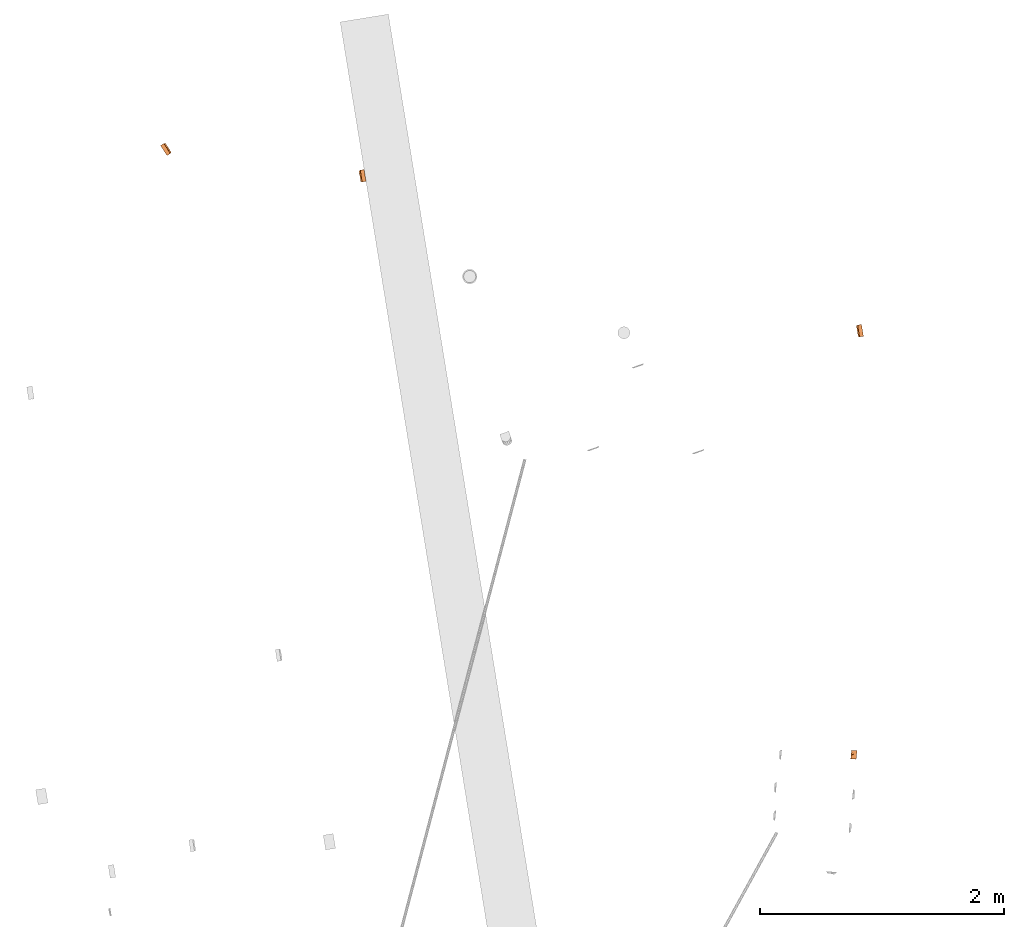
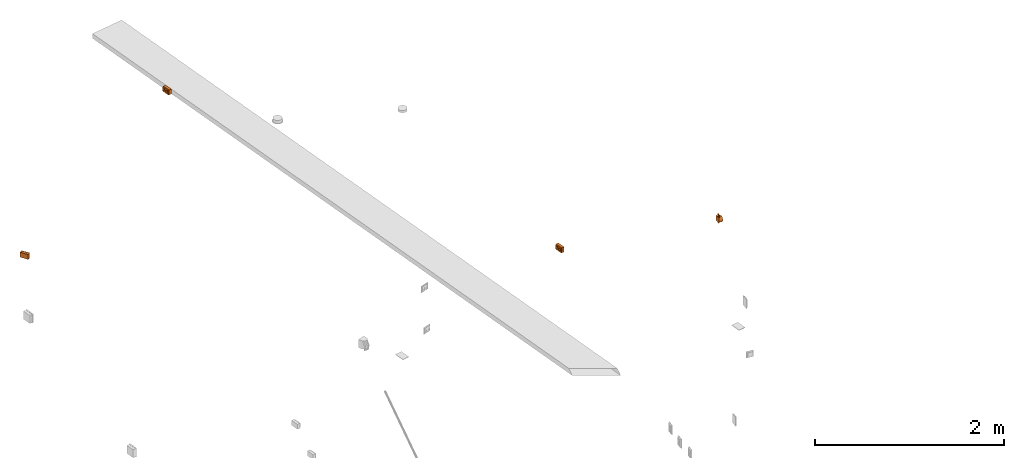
# One storey, part 32 of 33: 4 proxies.
"""IFC2X3 building model written with IfcOpenShell, lengths in millimetres."""

from ifc_helpers import new_model, entity, si_unit, converted_unit, derived_unit, direction, frame, frame_2d, origin, origin_with_axes, origin_2d_with_axis, place, context, subcontext, project, spatial, polyline, circle_curve, parameter, trimmed, segment, composite_curve, rectangle, circle, hollow_circle, outline, extrude, source, transform, mapped, material, type_object, element, save


model = new_model("IFC2X3")

# Units and contexts
plan_context = context("Plan", 3, precision=1e-05, world=origin_with_axes())
model_context = context("Model", 3, precision=0.01, world=origin(), true_north=direction((6.12323399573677e-17, 1.0)))
body_context = subcontext(model_context, "Body", "Model", "MODEL_VIEW")
ifc_project = project(units=[converted_unit("PLANEANGLEUNIT", "DEGREE", entity("IfcPositiveLengthMeasure", 0.0174532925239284), si_unit("PLANEANGLEUNIT", "RADIAN"), dimensions=[0, 0, 0, 0, 0, 0, 0]), si_unit("AREAUNIT", "SQUARE_METRE"), si_unit("LENGTHUNIT", "METRE", prefix="MILLI"), si_unit("MASSUNIT", "GRAM", prefix="KILO"), si_unit("POWERUNIT", "WATT"), si_unit("PRESSUREUNIT", "PASCAL", prefix="KILO"), si_unit("FORCEUNIT", "NEWTON", prefix="KILO"), si_unit("ELECTRICVOLTAGEUNIT", "VOLT"), si_unit("ELECTRICCURRENTUNIT", "AMPERE"), si_unit("THERMODYNAMICTEMPERATUREUNIT", "DEGREE_CELSIUS"), si_unit("TIMEUNIT", "SECOND"), si_unit("VOLUMEUNIT", "CUBIC_METRE"), derived_unit("LINEARVELOCITYUNIT", [(si_unit("LENGTHUNIT", "METRE"), 1), (si_unit("TIMEUNIT", "SECOND"), -1)]), derived_unit("VOLUMETRICFLOWRATEUNIT", [(si_unit("VOLUMEUNIT", "CUBIC_METRE"), 1), (si_unit("TIMEUNIT", "SECOND"), -1)]), derived_unit("THERMALTRANSMITTANCEUNIT", [(si_unit("POWERUNIT", "WATT"), 1), (si_unit("THERMODYNAMICTEMPERATUREUNIT", "KELVIN"), -1), (si_unit("AREAUNIT", "SQUARE_METRE"), -1)]), derived_unit("SOUNDPRESSUREUNIT", [(si_unit("PRESSUREUNIT", "PASCAL"), 1)])], contexts=[model_context, plan_context])

# Site, building, storey
site_placement = place(None, frame((-0.219946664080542, 0.12226179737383, 0.0), z_axis=(0.0, 0.0, 1.0), x_axis=(-0.160236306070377, 0.987078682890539, 0.0)))
site = spatial("IfcSite", under=ifc_project, at=site_placement, Name="Default", CompositionType="ELEMENT")
building_placement = place(site_placement, origin_with_axes())
building = spatial("IfcBuilding", under=site, at=building_placement, CompositionType="ELEMENT")
storey_placement = place(building_placement, frame((0.0, 0.0, 59000.0), z_axis=(0.0, 0.0, 1.0), x_axis=(1.0, 0.0, 0.0)))
storey = spatial("IfcBuildingStorey", under=building, at=storey_placement, Name="Nivå F", CompositionType="ELEMENT", Elevation=59000.0)

# Proxies
ifc_material = material(Name="<Unnamed>")
building_element_proxy_type_1 = type_object("IfcBuildingElementProxyType", Name="Dobbel stikk på vegg 2P+J hor PH:EARTHED-SOCKET-2(HOR)", PredefinedType="NOTDEFINED", material=ifc_material)
shared_shape_1 = source(origin(), body_context, "Body", "SweptSolid", [
    extrude(outline(composite_curve([segment(polyline([(-6.66666666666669, -6.66666666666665), (13.3333333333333, -6.66666666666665)]), True, "CONTINUOUS"), segment(trimmed(circle_curve(frame_2d((13.3333333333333, 13.3333333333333), x_axis=(0.0, -1.0)), 20.0), [parameter(270.0)], [parameter(5.08888749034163e-14)], True, "PARAMETER"), False, "CONTINUOUS"), segment(polyline([(-6.66666666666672, 13.3333333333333), (-6.66666666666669, -6.66666666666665)]), True, "CONTINUOUS")], self_intersect=False)), frame((35.3333333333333, 42.8999999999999, 13.3533333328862), z_axis=(0.0, 1.0, 0.0), x_axis=(0.0, 0.0, -1.0)), (0.0, 0.0, 1.0), 0.199999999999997),
    extrude(outline(composite_curve([segment(polyline([(-6.66666666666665, -6.66666666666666), (13.3333333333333, -6.66666666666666)]), True, "CONTINUOUS"), segment(trimmed(circle_curve(frame_2d((13.3333333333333, 13.3333333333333), x_axis=(-1.0, 0.0)), 20.0), [parameter(360.0)], [parameter(89.9999999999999)], True, "PARAMETER"), False, "CONTINUOUS"), segment(polyline([(-6.66666666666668, 13.3333333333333), (-6.66666666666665, -6.66666666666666)]), True, "CONTINUOUS")], self_intersect=False)), frame((35.3333333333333, 42.8999999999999, -13.3233333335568), z_axis=(0.0, 1.0, 0.0), x_axis=(-1.0, 0.0, 0.0)), (0.0, 0.0, 1.0), 0.199999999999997),
    extrude(outline(composite_curve([segment(polyline([(-6.66666666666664, -6.66666666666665), (13.3333333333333, -6.66666666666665)]), True, "CONTINUOUS"), segment(trimmed(circle_curve(frame_2d((13.3333333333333, 13.3333333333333), x_axis=(-1.0, 0.0)), 20.0), [parameter(0.0)], [parameter(89.9999999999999)], True, "PARAMETER"), False, "CONTINUOUS"), segment(polyline([(-6.66666666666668, 13.3333333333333), (-6.66666666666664, -6.66666666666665)]), True, "CONTINUOUS")], self_intersect=False)), frame((8.66666666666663, 42.8999999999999, 13.3433333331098), z_axis=(0.0, 1.0, 0.0), x_axis=(1.0, 0.0, 0.0)), (0.0, 0.0, 1.0), 0.199999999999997),
    extrude(outline(composite_curve([segment(polyline([(-6.66666666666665, -6.66666666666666), (13.3333333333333, -6.66666666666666)]), True, "CONTINUOUS"), segment(trimmed(circle_curve(frame_2d((13.3333333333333, 13.3333333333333), x_axis=(-1.0, 0.0)), 20.0), [parameter(360.0)], [parameter(89.9999999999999)], True, "PARAMETER"), False, "CONTINUOUS"), segment(polyline([(-6.66666666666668, 13.3333333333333), (-6.66666666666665, -6.66666666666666)]), True, "CONTINUOUS")], self_intersect=False)), frame((35.3333333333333, 42.8999999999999, -13.3433333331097), z_axis=(0.0, 1.0, 0.0), x_axis=(-1.0, 0.0, 0.0)), (0.0, 0.0, 1.0), 0.199999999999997),
    extrude(outline(composite_curve([segment(polyline([(-6.66666666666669, -6.66666666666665), (13.3333333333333, -6.66666666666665)]), True, "CONTINUOUS"), segment(trimmed(circle_curve(frame_2d((13.3333333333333, 13.3333333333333), x_axis=(0.0, -1.0)), 20.0), [parameter(270.0)], [parameter(5.08888749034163e-14)], True, "PARAMETER"), False, "CONTINUOUS"), segment(polyline([(-6.66666666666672, 13.3333333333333), (-6.66666666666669, -6.66666666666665)]), True, "CONTINUOUS")], self_intersect=False)), frame((35.3333333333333, 42.8999999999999, 13.3333333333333), z_axis=(0.0, 1.0, 0.0), x_axis=(0.0, 0.0, -1.0)), (0.0, 0.0, 1.0), 0.199999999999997),
    extrude(outline(composite_curve([segment(polyline([(-6.66666666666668, -6.66666666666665), (13.3333333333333, -6.66666666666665)]), True, "CONTINUOUS"), segment(trimmed(circle_curve(frame_2d((13.3333333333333, 13.3333333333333), x_axis=(0.0, -1.0)), 20.0), [parameter(270.0)], [parameter(0.0)], True, "PARAMETER"), False, "CONTINUOUS"), segment(polyline([(-6.66666666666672, 13.3333333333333), (-6.66666666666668, -6.66666666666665)]), True, "CONTINUOUS")], self_intersect=False)), frame((8.66666666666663, 42.8999999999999, -13.3333333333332), z_axis=(0.0, 1.0, 0.0), x_axis=(0.0, 0.0, 1.0)), (0.0, 0.0, 1.0), 0.199999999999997),
    extrude(outline(composite_curve([segment(polyline([(-6.66666666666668, -6.66666666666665), (13.3333333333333, -6.66666666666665)]), True, "CONTINUOUS"), segment(trimmed(circle_curve(frame_2d((13.3333333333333, 13.3333333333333), x_axis=(0.0, -1.0)), 20.0), [parameter(270.0)], [parameter(0.0)], True, "PARAMETER"), False, "CONTINUOUS"), segment(polyline([(-6.66666666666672, 13.3333333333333), (-6.66666666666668, -6.66666666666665)]), True, "CONTINUOUS")], self_intersect=False)), frame((-8.66666666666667, 42.8999999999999, 13.3533333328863), z_axis=(0.0, 1.0, 0.0), x_axis=(0.0, 0.0, -1.0)), (0.0, 0.0, 1.0), 0.199999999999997),
    extrude(outline(composite_curve([segment(polyline([(-6.66666666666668, -6.66666666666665), (13.3333333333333, -6.66666666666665)]), True, "CONTINUOUS"), segment(trimmed(circle_curve(frame_2d((13.3333333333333, 13.3333333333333), x_axis=(-1.0, 0.0)), 20.0), [parameter(0.0)], [parameter(90.0)], True, "PARAMETER"), False, "CONTINUOUS"), segment(polyline([(-6.66666666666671, 13.3333333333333), (-6.66666666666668, -6.66666666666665)]), True, "CONTINUOUS")], self_intersect=False)), frame((-8.66666666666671, 42.8999999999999, -13.3233333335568), z_axis=(0.0, 1.0, 0.0), x_axis=(-1.0, 0.0, 0.0)), (0.0, 0.0, 1.0), 0.199999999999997),
    extrude(outline(composite_curve([segment(polyline([(-6.66666666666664, -6.66666666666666), (13.3333333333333, -6.66666666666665)]), True, "CONTINUOUS"), segment(trimmed(circle_curve(frame_2d((13.3333333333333, 13.3333333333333), x_axis=(-1.0, 0.0)), 20.0), [parameter(360.0)], [parameter(89.9999999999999)], True, "PARAMETER"), False, "CONTINUOUS"), segment(polyline([(-6.66666666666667, 13.3333333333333), (-6.66666666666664, -6.66666666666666)]), True, "CONTINUOUS")], self_intersect=False)), frame((-35.3333333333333, 42.8999999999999, 13.3433333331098), z_axis=(0.0, 1.0, 0.0), x_axis=(1.0, 0.0, 0.0)), (0.0, 0.0, 1.0), 0.199999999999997),
    extrude(outline(composite_curve([segment(polyline([(-6.66666666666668, -6.66666666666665), (13.3333333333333, -6.66666666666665)]), True, "CONTINUOUS"), segment(trimmed(circle_curve(frame_2d((13.3333333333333, 13.3333333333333), x_axis=(-1.0, 0.0)), 20.0), [parameter(0.0)], [parameter(90.0)], True, "PARAMETER"), False, "CONTINUOUS"), segment(polyline([(-6.66666666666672, 13.3333333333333), (-6.66666666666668, -6.66666666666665)]), True, "CONTINUOUS")], self_intersect=False)), frame((-8.66666666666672, 42.8999999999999, -13.3433333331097), z_axis=(0.0, 1.0, 0.0), x_axis=(-1.0, 0.0, 0.0)), (0.0, 0.0, 1.0), 0.199999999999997),
    extrude(outline(composite_curve([segment(polyline([(-6.66666666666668, -6.66666666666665), (13.3333333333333, -6.66666666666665)]), True, "CONTINUOUS"), segment(trimmed(circle_curve(frame_2d((13.3333333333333, 13.3333333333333), x_axis=(0.0, -1.0)), 20.0), [parameter(270.0)], [parameter(0.0)], True, "PARAMETER"), False, "CONTINUOUS"), segment(polyline([(-6.66666666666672, 13.3333333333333), (-6.66666666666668, -6.66666666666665)]), True, "CONTINUOUS")], self_intersect=False)), frame((-8.66666666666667, 42.8999999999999, 13.3333333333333), z_axis=(0.0, 1.0, 0.0), x_axis=(0.0, 0.0, -1.0)), (0.0, 0.0, 1.0), 0.199999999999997),
    extrude(outline(composite_curve([segment(polyline([(-6.66666666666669, -6.66666666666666), (13.3333333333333, -6.66666666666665)]), True, "CONTINUOUS"), segment(trimmed(circle_curve(frame_2d((13.3333333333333, 13.3333333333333), x_axis=(0.0, -1.0)), 20.0), [parameter(270.0)], [parameter(5.08888749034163e-14)], True, "PARAMETER"), False, "CONTINUOUS"), segment(polyline([(-6.66666666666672, 13.3333333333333), (-6.66666666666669, -6.66666666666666)]), True, "CONTINUOUS")], self_intersect=False)), frame((-35.3333333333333, 42.8999999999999, -13.3333333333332), z_axis=(0.0, 1.0, 0.0), x_axis=(0.0, 0.0, 1.0)), (0.0, 0.0, 1.0), 0.199999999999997),
    extrude(rectangle(XDim=9.99999999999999, YDim=1.0, at=frame_2d((0.0, 2.1094237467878e-15), x_axis=(1.0, 0.0))), frame((22.0, 40.0, -17.6), z_axis=(0.0, 0.0, 1.0), x_axis=(0.0, -1.0, 0.0)), (0.0, 0.0, 1.0), 0.199999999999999),
    extrude(rectangle(XDim=21.5, YDim=1.0, at=frame_2d((0.0, 8.43769498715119e-15), x_axis=(1.0, 0.0))), frame((22.0, 32.25, -19.6), z_axis=(0.0, 0.0, 1.0), x_axis=(0.0, -1.0, 0.0)), (0.0, 0.0, 1.0), 0.200000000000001),
    extrude(rectangle(XDim=9.99999999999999, YDim=1.0, at=frame_2d((0.0, 2.1094237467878e-15), x_axis=(1.0, 0.0))), frame((22.0, 40.0, 17.4), z_axis=(0.0, 0.0, 1.0), x_axis=(0.0, -1.0, 0.0)), (0.0, 0.0, 1.0), 0.199999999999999),
    extrude(rectangle(XDim=21.5, YDim=1.0, at=frame_2d((0.0, 8.43769498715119e-15), x_axis=(1.0, 0.0))), frame((22.0, 32.25, 19.4), z_axis=(0.0, 0.0, 1.0), x_axis=(0.0, -1.0, 0.0)), (0.0, 0.0, 1.0), 0.200000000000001),
    extrude(rectangle(XDim=9.99999999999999, YDim=1.0, at=frame_2d((0.0, -2.1094237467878e-15), x_axis=(1.0, 0.0))), frame((-22.0, 40.0, -17.6), z_axis=(0.0, 0.0, 1.0), x_axis=(0.0, -1.0, 0.0)), (0.0, 0.0, 1.0), 0.199999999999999),
    extrude(rectangle(XDim=21.5, YDim=1.0, at=frame_2d((0.0, 8.43769498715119e-15), x_axis=(1.0, 0.0))), frame((-22.0, 32.25, -19.6), z_axis=(0.0, 0.0, 1.0), x_axis=(0.0, -1.0, 0.0)), (0.0, 0.0, 1.0), 0.200000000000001),
    extrude(rectangle(XDim=9.99999999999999, YDim=1.0, at=frame_2d((0.0, -2.1094237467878e-15), x_axis=(1.0, 0.0))), frame((-22.0, 40.0, 17.4), z_axis=(0.0, 0.0, 1.0), x_axis=(0.0, -1.0, 0.0)), (0.0, 0.0, 1.0), 0.199999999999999),
    extrude(rectangle(XDim=21.5, YDim=1.0, at=frame_2d((0.0, 8.43769498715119e-15), x_axis=(1.0, 0.0))), frame((-22.0, 32.25, 19.4), z_axis=(0.0, 0.0, 1.0), x_axis=(0.0, -1.0, 0.0)), (0.0, 0.0, 1.0), 0.200000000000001),
    extrude(rectangle(XDim=0.199999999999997, YDim=2.0, at=frame_2d((4.2257863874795e-15, 0.0), x_axis=(1.0, 0.0))), frame((43.0, 43.0, 0.0199999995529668), z_axis=(0.0, 0.0, 1.0), x_axis=(0.0, 1.0, 0.0)), (0.0, 0.0, 1.0), 20.0),
    extrude(rectangle(XDim=0.199999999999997, YDim=40.0, at=frame_2d((4.2257863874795e-15, 0.0), x_axis=(1.0, 0.0))), frame((22.0, 43.0, 20.0199999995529), z_axis=(0.0, 0.0, 1.0), x_axis=(0.0, 1.0, 0.0)), (0.0, 0.0, 1.0), 6.5),
    extrude(rectangle(XDim=0.199999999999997, YDim=2.0, at=frame_2d((4.2257863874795e-15, 0.0), x_axis=(1.0, 0.0))), frame((43.0, 43.0, -19.9900000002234), z_axis=(0.0, 0.0, 1.0), x_axis=(0.0, -1.0, 0.0)), (0.0, 0.0, 1.0), 20.0),
    extrude(rectangle(XDim=0.199999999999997, YDim=40.0, at=frame_2d((4.2257863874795e-15, 0.0), x_axis=(1.0, 0.0))), frame((22.0, 43.0, -26.4900000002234), z_axis=(0.0, 0.0, 1.0), x_axis=(0.0, -1.0, 0.0)), (0.0, 0.0, 1.0), 6.49999999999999),
    extrude(rectangle(XDim=0.199999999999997, YDim=2.0, at=frame_2d((4.2257863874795e-15, 0.0), x_axis=(1.0, 0.0))), frame((1.0, 43.0, 0.00999999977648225), z_axis=(0.0, 0.0, 1.0), x_axis=(0.0, -1.0, 0.0)), (0.0, 0.0, 1.0), 20.0),
    extrude(rectangle(XDim=0.199999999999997, YDim=2.0, at=frame_2d((4.2257863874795e-15, 0.0), x_axis=(1.0, 0.0))), frame((43.0, 43.0, -20.0099999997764), z_axis=(0.0, 0.0, 1.0), x_axis=(0.0, -1.0, 0.0)), (0.0, 0.0, 1.0), 20.0),
    extrude(rectangle(XDim=0.199999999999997, YDim=40.0, at=frame_2d((4.2257863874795e-15, 0.0), x_axis=(1.0, 0.0))), frame((22.0, 43.0, -26.5099999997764), z_axis=(0.0, 0.0, 1.0), x_axis=(0.0, -1.0, 0.0)), (0.0, 0.0, 1.0), 6.5),
    extrude(rectangle(XDim=0.199999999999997, YDim=2.0, at=frame_2d((4.2257863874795e-15, 0.0), x_axis=(1.0, 0.0))), frame((43.0, 43.0, 0.0), z_axis=(0.0, 0.0, 1.0), x_axis=(0.0, 1.0, 0.0)), (0.0, 0.0, 1.0), 20.0),
    extrude(rectangle(XDim=0.199999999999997, YDim=40.0, at=frame_2d((4.2257863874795e-15, 0.0), x_axis=(1.0, 0.0))), frame((22.0, 43.0, 20.0), z_axis=(0.0, 0.0, 1.0), x_axis=(0.0, 1.0, 0.0)), (0.0, 0.0, 1.0), 6.5),
    extrude(rectangle(XDim=0.199999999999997, YDim=2.0, at=frame_2d((4.2257863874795e-15, 0.0), x_axis=(1.0, 0.0))), frame((1.0, 43.0, -20.0), z_axis=(0.0, 0.0, 1.0), x_axis=(0.0, 1.0, 0.0)), (0.0, 0.0, 1.0), 20.0),
    extrude(rectangle(XDim=0.199999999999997, YDim=2.0, at=frame_2d((4.2257863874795e-15, 0.0), x_axis=(1.0, 0.0))), frame((-1.0, 43.0, 0.0199999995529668), z_axis=(0.0, 0.0, 1.0), x_axis=(0.0, 1.0, 0.0)), (0.0, 0.0, 1.0), 20.0),
    extrude(rectangle(XDim=0.199999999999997, YDim=40.0, at=frame_2d((4.2257863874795e-15, 0.0), x_axis=(1.0, 0.0))), frame((-22.0, 43.0, 20.0199999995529), z_axis=(0.0, 0.0, 1.0), x_axis=(0.0, 1.0, 0.0)), (0.0, 0.0, 1.0), 6.5),
    extrude(rectangle(XDim=0.199999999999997, YDim=2.0, at=frame_2d((4.2257863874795e-15, 0.0), x_axis=(1.0, 0.0))), frame((-1.0, 43.0, -19.9900000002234), z_axis=(0.0, 0.0, 1.0), x_axis=(0.0, -1.0, 0.0)), (0.0, 0.0, 1.0), 20.0),
    extrude(rectangle(XDim=0.199999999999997, YDim=40.0, at=frame_2d((4.2257863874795e-15, 0.0), x_axis=(1.0, 0.0))), frame((-22.0, 43.0, -26.4900000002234), z_axis=(0.0, 0.0, 1.0), x_axis=(0.0, -1.0, 0.0)), (0.0, 0.0, 1.0), 6.49999999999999),
    extrude(rectangle(XDim=0.199999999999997, YDim=1.99999999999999, at=frame_2d((4.2257863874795e-15, 4.2188474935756e-15), x_axis=(1.0, 0.0))), frame((-43.0, 43.0, 0.00999999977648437), z_axis=(0.0, 0.0, 1.0), x_axis=(0.0, -1.0, 0.0)), (0.0, 0.0, 1.0), 20.0),
    extrude(rectangle(XDim=0.199999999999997, YDim=2.0, at=frame_2d((4.2257863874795e-15, 0.0), x_axis=(1.0, 0.0))), frame((-1.0, 43.0, -20.0099999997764), z_axis=(0.0, 0.0, 1.0), x_axis=(0.0, -1.0, 0.0)), (0.0, 0.0, 1.0), 20.0),
    extrude(rectangle(XDim=0.199999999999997, YDim=40.0, at=frame_2d((4.2257863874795e-15, 0.0), x_axis=(1.0, 0.0))), frame((-22.0, 43.0, -26.5099999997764), z_axis=(0.0, 0.0, 1.0), x_axis=(0.0, -1.0, 0.0)), (0.0, 0.0, 1.0), 6.5),
    extrude(rectangle(XDim=0.199999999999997, YDim=2.0, at=frame_2d((4.2257863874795e-15, 0.0), x_axis=(1.0, 0.0))), frame((-1.0, 43.0, 0.0), z_axis=(0.0, 0.0, 1.0), x_axis=(0.0, 1.0, 0.0)), (0.0, 0.0, 1.0), 20.0),
    extrude(rectangle(XDim=0.199999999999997, YDim=40.0, at=frame_2d((4.2257863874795e-15, 0.0), x_axis=(1.0, 0.0))), frame((-22.0, 43.0, 20.0), z_axis=(0.0, 0.0, 1.0), x_axis=(0.0, 1.0, 0.0)), (0.0, 0.0, 1.0), 6.5),
    extrude(rectangle(XDim=0.199999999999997, YDim=1.99999999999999, at=frame_2d((4.2257863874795e-15, -4.2188474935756e-15), x_axis=(1.0, 0.0))), frame((-43.0, 43.0, -20.0), z_axis=(0.0, 0.0, 1.0), x_axis=(0.0, 1.0, 0.0)), (0.0, 0.0, 1.0), 20.0),
    extrude(rectangle(XDim=0.199999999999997, YDim=2.0, at=frame_2d((4.2257863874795e-15, 0.0), x_axis=(1.0, 0.0))), frame((-1.0, 43.0, -26.5), z_axis=(0.0, 0.0, 1.0), x_axis=(0.0, 1.0, 0.0)), (0.0, 0.0, 1.0), 6.49999999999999),
    extrude(rectangle(XDim=0.199999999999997, YDim=1.99999999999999, at=frame_2d((4.2257863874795e-15, 4.2188474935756e-15), x_axis=(1.0, 0.0))), frame((-43.0, 43.0, -26.5), z_axis=(0.0, 0.0, 1.0), x_axis=(0.0, 1.0, 0.0)), (0.0, 0.0, 1.0), 6.49999999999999),
    extrude(rectangle(XDim=0.199999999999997, YDim=2.0, at=frame_2d((4.2257863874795e-15, 0.0), x_axis=(1.0, 0.0))), frame((1.0, 43.0, -26.5), z_axis=(0.0, 0.0, 1.0), x_axis=(0.0, 1.0, 0.0)), (0.0, 0.0, 1.0), 6.49999999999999),
    extrude(rectangle(XDim=0.199999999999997, YDim=1.99999999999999, at=frame_2d((4.2257863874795e-15, -4.2188474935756e-15), x_axis=(1.0, 0.0))), frame((43.0, 43.0, -26.5), z_axis=(0.0, 0.0, 1.0), x_axis=(0.0, 1.0, 0.0)), (0.0, 0.0, 1.0), 6.49999999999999),
    extrude(outline(polyline([(-24.3180677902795, -42.966633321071), (-11.2413709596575, -42.9666333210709), (22.4062700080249, 38.3465652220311), (13.1531687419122, 47.5867014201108), (-24.3180677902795, -42.966633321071)])), frame((0.0, 37.5413802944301, -29.0910366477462), z_axis=(0.0, -0.413802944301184, 0.910366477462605), x_axis=(-0.382359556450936, 0.84119102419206, 0.382359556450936)), (0.0, 0.0, 1.0), 0.199999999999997),
    extrude(outline(polyline([(-31.5, -6.04152298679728), (31.5, -6.04152298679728), (26.5, 6.04152298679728), (-26.5, 6.04152298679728), (-31.5, -6.04152298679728)])), frame((-46.5910366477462, 37.5413802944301, 0.0), z_axis=(0.910366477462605, -0.413802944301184, 0.0), x_axis=(0.0, 0.0, -1.0)), (0.0, 0.0, 1.0), 0.200000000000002),
    extrude(outline(polyline([(-31.5, -6.04152298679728), (31.5, -6.04152298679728), (26.5, 6.04152298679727), (-26.5, 6.04152298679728), (-31.5, -6.04152298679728)])), frame((46.4089633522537, 37.4586197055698, 0.0), z_axis=(0.910366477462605, 0.413802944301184, 0.0), x_axis=(0.0, 0.0, -1.0)), (0.0, 0.0, 1.0), 0.199999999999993),
    extrude(rectangle(XDim=32.0, YDim=97.9999999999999, at=frame_2d((1.77635683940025e-15, 0.0), x_axis=(1.0, 0.0))), frame((0.0, 16.0, -31.6), z_axis=(0.0, 0.0, 1.0), x_axis=(0.0, -1.0, 0.0)), (0.0, 0.0, 1.0), 0.200000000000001),
    extrude(rectangle(XDim=0.199999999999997, YDim=2.0, at=frame_2d((4.2257863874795e-15, 0.0), x_axis=(1.0, 0.0))), frame((-1.0, 43.0, 20.0), z_axis=(0.0, 0.0, 1.0), x_axis=(0.0, 1.0, 0.0)), (0.0, 0.0, 1.0), 6.49999999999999),
    extrude(rectangle(XDim=0.199999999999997, YDim=1.99999999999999, at=frame_2d((4.2257863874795e-15, 4.2188474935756e-15), x_axis=(1.0, 0.0))), frame((-43.0, 43.0, 20.0), z_axis=(0.0, 0.0, 1.0), x_axis=(0.0, 1.0, 0.0)), (0.0, 0.0, 1.0), 6.49999999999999),
    extrude(outline(polyline([(-44.0, -6.04152298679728), (44.0, -6.04152298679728), (49.0, 6.04152298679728), (-49.0, 6.04152298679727), (-44.0, -6.04152298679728)])), frame((0.0, 37.4586197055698, 28.9089633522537), z_axis=(0.0, 0.413802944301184, 0.910366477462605), x_axis=(-1.0, 0.0, 0.0)), (0.0, 0.0, 1.0), 0.200000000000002),
    extrude(rectangle(XDim=0.199999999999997, YDim=2.0, at=frame_2d((4.2257863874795e-15, 0.0), x_axis=(1.0, 0.0))), frame((1.0, 43.0, 20.0), z_axis=(0.0, 0.0, 1.0), x_axis=(0.0, 1.0, 0.0)), (0.0, 0.0, 1.0), 6.49999999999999),
    extrude(rectangle(XDim=0.199999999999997, YDim=1.99999999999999, at=frame_2d((4.2257863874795e-15, -4.2188474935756e-15), x_axis=(1.0, 0.0))), frame((43.0, 43.0, 20.0), z_axis=(0.0, 0.0, 1.0), x_axis=(0.0, 1.0, 0.0)), (0.0, 0.0, 1.0), 6.49999999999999),
    extrude(rectangle(XDim=32.0, YDim=97.9999999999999, at=frame_2d((1.77635683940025e-15, 0.0), x_axis=(1.0, 0.0))), frame((0.0, 16.0, 31.4), z_axis=(0.0, 0.0, 1.0), x_axis=(0.0, -1.0, 0.0)), (0.0, 0.0, 1.0), 0.200000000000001),
    extrude(rectangle(XDim=0.199999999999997, YDim=32.0, at=frame_2d((-4.2257863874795e-15, 0.0), x_axis=(1.0, 0.0))), frame((49.0, 16.0, -31.5)), (0.0, 0.0, 1.0), 62.9999999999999),
    extrude(rectangle(XDim=0.199999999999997, YDim=32.0, at=frame_2d((-4.2257863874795e-15, 0.0), x_axis=(1.0, 0.0))), frame((-49.0, 16.0, -31.5)), (0.0, 0.0, 1.0), 62.9999999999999),
    extrude(rectangle(XDim=0.2, YDim=97.9999999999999, at=origin_2d_with_axis()), frame((0.0, 0.0, -31.5), z_axis=(0.0, 0.0, 1.0), x_axis=(0.0, 1.0, 0.0)), (0.0, 0.0, 1.0), 62.9999999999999),
    extrude(circle(Radius=2.5, at=frame_2d((0.0, -4.22994972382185e-15), x_axis=(1.0, 0.0))), frame((32.0, 21.450000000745, 0.0), z_axis=(0.0, 1.0, 0.0), x_axis=(0.0, 0.0, 1.0)), (0.0, 0.0, 1.0), 0.200000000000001),
    extrude(circle(Radius=2.5, at=frame_2d((0.0, -4.22994972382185e-15), x_axis=(1.0, 0.0))), frame((12.0, 21.450000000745, 0.0), z_axis=(0.0, 1.0, 0.0), x_axis=(0.0, 0.0, 1.0)), (0.0, 0.0, 1.0), 0.200000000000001),
    extrude(circle(Radius=2.5, at=frame_2d((0.0, -4.22994972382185e-15), x_axis=(1.0, 0.0))), frame((-12.0, 21.450000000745, 0.0), z_axis=(0.0, 1.0, 0.0), x_axis=(0.0, 0.0, 1.0)), (0.0, 0.0, 1.0), 0.200000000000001),
    extrude(circle(Radius=2.5, at=frame_2d((0.0, -4.22994972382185e-15), x_axis=(1.0, 0.0))), frame((-32.0, 21.450000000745, 0.0), z_axis=(0.0, 1.0, 0.0), x_axis=(0.0, 0.0, 1.0)), (0.0, 0.0, 1.0), 0.200000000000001),
    extrude(circle(Radius=20.0, at=frame_2d((0.0, -2.96096480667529e-14), x_axis=(1.0, 0.0))), frame((22.0, 21.4, 0.0), z_axis=(0.0, 1.0, 0.0), x_axis=(0.0, 0.0, 1.0)), (0.0, 0.0, 1.0), 0.200000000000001),
    extrude(circle(Radius=20.0, at=frame_2d((0.0, -2.96096480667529e-14), x_axis=(1.0, 0.0))), frame((-22.0, 21.4, 0.0), z_axis=(0.0, 1.0, 0.0), x_axis=(0.0, 0.0, 1.0)), (0.0, 0.0, 1.0), 0.200000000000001),
    extrude(outline(composite_curve([segment(trimmed(circle_curve(frame_2d((-0.800000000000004, 0.800000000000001), x_axis=(1.0, 0.0)), 2.0), [parameter(270.0)], [parameter(0.0)], True, "PARAMETER"), True, "CONTINUOUS"), segment(polyline([(1.2, 0.8), (0.399999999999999, 0.8)]), True, "CONTINUOUS"), segment(trimmed(circle_curve(frame_2d((-0.800000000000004, 0.799999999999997), x_axis=(0.0, -1.0)), 1.2), [parameter(0.0)], [parameter(89.9999999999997)], True, "PARAMETER"), False, "CONTINUOUS"), segment(polyline([(-0.799999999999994, -0.400000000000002), (-0.799999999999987, -1.2)]), True, "CONTINUOUS")], self_intersect=False)), frame((20.5, 43.7999999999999, -18.3), z_axis=(1.0, 0.0, 0.0), x_axis=(0.0, 1.0, 0.0)), (0.0, 0.0, 1.0), 2.0),
    extrude(outline(composite_curve([segment(polyline([(-1.2, -0.800000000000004), (-0.399999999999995, -0.800000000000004)]), True, "CONTINUOUS"), segment(trimmed(circle_curve(frame_2d((0.800000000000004, -0.800000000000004), x_axis=(-1.0, 0.0)), 1.2), [parameter(270.0)], [parameter(0.0)], True, "PARAMETER"), False, "CONTINUOUS"), segment(polyline([(0.799999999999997, 0.399999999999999), (0.79999999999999, 1.2)]), True, "CONTINUOUS"), segment(trimmed(circle_curve(frame_2d((0.800000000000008, -0.800000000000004), x_axis=(0.0, 1.0)), 2.0), [parameter(0.0)], [parameter(89.9999999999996)], True, "PARAMETER"), True, "CONTINUOUS")], self_intersect=False)), frame((21.5, 43.8, 18.3), z_axis=(1.0, 0.0, 0.0), x_axis=(0.0, 0.0, -1.0)), (0.0, 0.0, 1.0), 2.0),
    extrude(outline(composite_curve([segment(trimmed(circle_curve(frame_2d((-0.800000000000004, 0.800000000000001), x_axis=(1.0, 0.0)), 2.0), [parameter(270.0)], [parameter(0.0)], True, "PARAMETER"), True, "CONTINUOUS"), segment(polyline([(1.2, 0.8), (0.399999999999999, 0.8)]), True, "CONTINUOUS"), segment(trimmed(circle_curve(frame_2d((-0.800000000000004, 0.799999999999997), x_axis=(0.0, -1.0)), 1.2), [parameter(0.0)], [parameter(89.9999999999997)], True, "PARAMETER"), False, "CONTINUOUS"), segment(polyline([(-0.799999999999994, -0.400000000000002), (-0.799999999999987, -1.2)]), True, "CONTINUOUS")], self_intersect=False)), frame((-23.5, 43.7999999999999, -18.3), z_axis=(1.0, 0.0, 0.0), x_axis=(0.0, 1.0, 0.0)), (0.0, 0.0, 1.0), 2.0),
    extrude(outline(composite_curve([segment(polyline([(-1.2, -0.800000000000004), (-0.399999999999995, -0.800000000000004)]), True, "CONTINUOUS"), segment(trimmed(circle_curve(frame_2d((0.800000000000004, -0.800000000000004), x_axis=(-1.0, 0.0)), 1.2), [parameter(270.0)], [parameter(0.0)], True, "PARAMETER"), False, "CONTINUOUS"), segment(polyline([(0.799999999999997, 0.399999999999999), (0.79999999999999, 1.2)]), True, "CONTINUOUS"), segment(trimmed(circle_curve(frame_2d((0.800000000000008, -0.800000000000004), x_axis=(0.0, 1.0)), 2.0), [parameter(0.0)], [parameter(89.9999999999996)], True, "PARAMETER"), True, "CONTINUOUS")], self_intersect=False)), frame((-22.5, 43.8, 18.3), z_axis=(1.0, 0.0, 0.0), x_axis=(0.0, 0.0, -1.0)), (0.0, 0.0, 1.0), 2.0),
    extrude(hollow_circle(Radius=20.0, WallThickness=0.199999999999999, at=frame_2d((0.0, -2.96096480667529e-14), x_axis=(1.0, 0.0))), frame((22.0, 21.5, 0.0), z_axis=(0.0, 1.0, 0.0), x_axis=(0.0, 0.0, 1.0)), (0.0, 0.0, 1.0), 21.5),
    extrude(hollow_circle(Radius=20.0, WallThickness=0.199999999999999, at=frame_2d((0.0, -2.96096480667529e-14), x_axis=(1.0, 0.0))), frame((-22.0, 21.5, 0.0), z_axis=(0.0, 1.0, 0.0), x_axis=(0.0, 0.0, 1.0)), (0.0, 0.0, 1.0), 21.5),
])
for number, where, z_axis, x_axis in (
    (1, (783547.044413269, -509796.403800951, 200.0), (0.0, 0.0, 1.0), (1.0, 0.0, 0.0)),
    (2, (785917.746605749, -504382.637162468, 1200.0), (0.0, 0.0, 1.0), (-0.916650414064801, -0.39968990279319, 0.0)),
    (3, (785452.559959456, -505977.495409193, 2900.0), (0.0, 0.0, 1.0), (0.999995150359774, 0.00311436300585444, 0.0)),
):
    element("IfcBuildingElementProxy", number, at=place(storey_placement, frame(where, z_axis=z_axis, x_axis=x_axis)), inside=storey, type_object=building_element_proxy_type_1, material=ifc_material, Name="Dobbel stikk på vegg 2P+J hor PH:EARTHED-SOCKET-2(HOR)", ObjectType="Dobbel stikk på vegg 2P+J hor PH:EARTHED-SOCKET-2(HOR)", context=body_context, shape_type="MappedRepresentation", body=[
        mapped(shared_shape_1, transform((0.0, 0.0, 0.0), scale=1.0)),
    ])
building_element_proxy_type_2 = type_object("IfcBuildingElementProxyType", Name="Koblingsboks skjult:CABLE CLIP 1 - WALL - 2", PredefinedType="NOTDEFINED", material=ifc_material)
shared_shape_2 = source(origin(), body_context, "Body", "SweptSolid", [
    extrude(rectangle(XDim=70.9999999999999, YDim=2.25, at=frame_2d((0.0, -4.2188474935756e-15), x_axis=(1.0, 0.0))), frame((0.0, -43.8750000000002, -35.5), z_axis=(0.0, 0.0, 1.0), x_axis=(-1.0, 0.0, 0.0)), (0.0, 0.0, 1.0), 70.9999999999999),
    extrude(hollow_circle(Radius=8.99999999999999, WallThickness=0.200000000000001, at=frame_2d((0.0, -1.69197988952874e-14), x_axis=(1.0, 0.0))), frame((10.0, -33.75, 28.4000015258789)), (0.0, 0.0, 1.0), 32.5999984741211),
    extrude(hollow_circle(Radius=8.99999999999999, WallThickness=0.200000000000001, at=frame_2d((0.0, -1.69197988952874e-14), x_axis=(1.0, 0.0))), frame((-10.0, -33.75, 28.4000015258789)), (0.0, 0.0, 1.0), 32.5999984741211),
    extrude(hollow_circle(Radius=35.5, WallThickness=0.200000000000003, at=frame_2d((0.0, -1.59825417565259e-13), x_axis=(1.0, 0.0))), frame((0.0, -42.75, 0.0), z_axis=(0.0, 1.0, 0.0), x_axis=(0.0, 0.0, -1.0)), (0.0, 0.0, 1.0), 42.75),
])
proxy_placement = place(storey_placement, frame((780120.398075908, -509191.368615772, 2700.0), z_axis=(0.0, 0.0, 1.0), x_axis=(-0.965925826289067, 0.258819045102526, 0.0)))
element("IfcBuildingElementProxy", 4, at=proxy_placement, inside=storey, type_object=building_element_proxy_type_2, material=ifc_material, Name="Koblingsboks skjult:CABLE CLIP 1 - WALL - 2", ObjectType="Koblingsboks skjult:CABLE CLIP 1 - WALL - 2", context=body_context, shape_type="MappedRepresentation", body=[
    mapped(shared_shape_2, transform((0.0, 0.0, 0.0), scale=1.0)),
])

save(model, "model.ifc")
